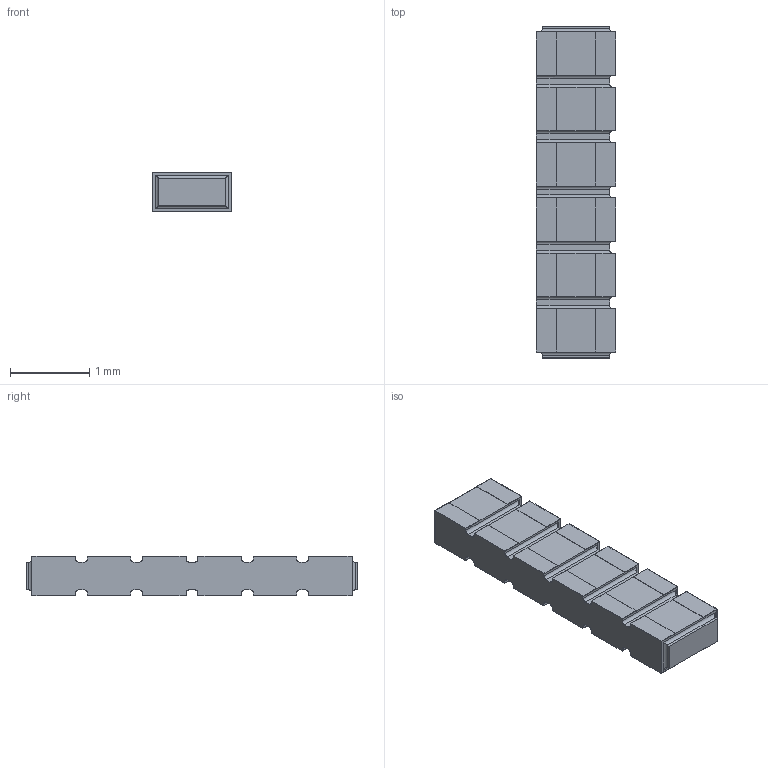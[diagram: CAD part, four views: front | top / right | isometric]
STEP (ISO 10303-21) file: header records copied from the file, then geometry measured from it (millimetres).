
FILE_DESCRIPTION(/* description */ (''),/* implementation_level */ '2;1');
FILE_NAME(/* name */ 'S:\DOCUMENT\AUTOCAD\3D_Modèles\10_3D-pour-VISHAY-COM\PRA\PRA074\PRA074-C2_à_C8\10_IGES\PRA074C6_B-or-N-or-G.stp',/* time_stamp */ '2017-12-19T14:43:11+01:00',/* author */ ('dparmentier'),/* organization */ ('unknown'),/* preprocessor_version */ 'ST-DEVELOPER v17',/* originating_system */ 'Autodesk Inventor 2018',/* authorisation */ '');
FILE_SCHEMA (('AUTOMOTIVE_DESIGN { 1 0 10303 214 3 1 1 }'));
Length unit declared in the file: millimetre
Products named in the file (1): PRA074C6_B-or-N-or-G
Bounding box: 1 x 4.2 x 0.5 mm (x, y, z)
Volume: 1.9 mm3; surface area: 28 mm2
Topology: 8 solids, 8 shells, 244 faces, 650 edges, 424 vertices
Faces by surface type: plane 186, cylinder 58
Entity records: 7524 total; most frequent: CARTESIAN_POINT 1319, ORIENTED_EDGE 1300, DIRECTION 1228, EDGE_CURVE 650, LINE 562, VECTOR 562, VERTEX_POINT 424, AXIS2_PLACEMENT_3D 333
